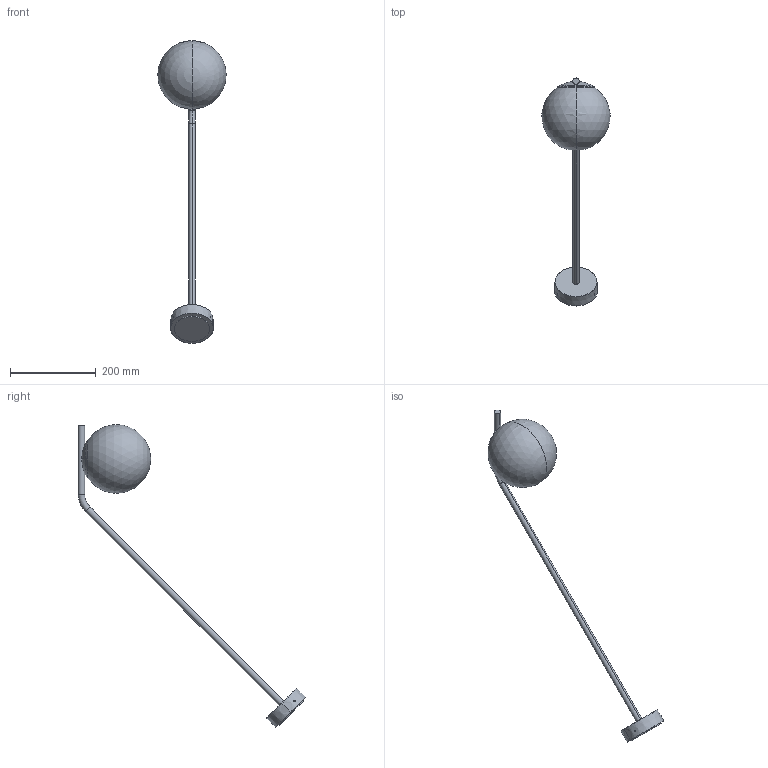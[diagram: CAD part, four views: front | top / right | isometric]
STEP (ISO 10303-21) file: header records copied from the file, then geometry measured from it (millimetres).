
FILE_DESCRIPTION((''),'2;1');
FILE_NAME('SOFFITTO_80_SW0001','2026-02-03T16:51:33',('Piccioli'),(''),'CREO PARAMETRIC BY PTC INC, 2025010','CREO PARAMETRIC BY PTC INC, 2025010','');
FILE_SCHEMA(('CONFIG_CONTROL_DESIGN'));
Length unit declared in the file: millimetre
Products named in the file (1): SOFFITTO_80_SW0001
Bounding box: 159.64 x 530.97 x 706.15 mm (x, y, z)
Surface area: 154186.5 mm2 (no closed solid volume)
Topology: 0 solids, 9 shells, 44 faces, 112 edges, 71 vertices
Faces by surface type: torus 16, cylinder 9, plane 7, sphere 6, cone 6
Entity records: 1922 total; most frequent: CARTESIAN_POINT 824, DIRECTION 257, ORIENTED_EDGE 180, AXIS2_PLACEMENT_3D 117, EDGE_CURVE 110, CIRCLE 73, VERTEX_POINT 71, EDGE_LOOP 44
